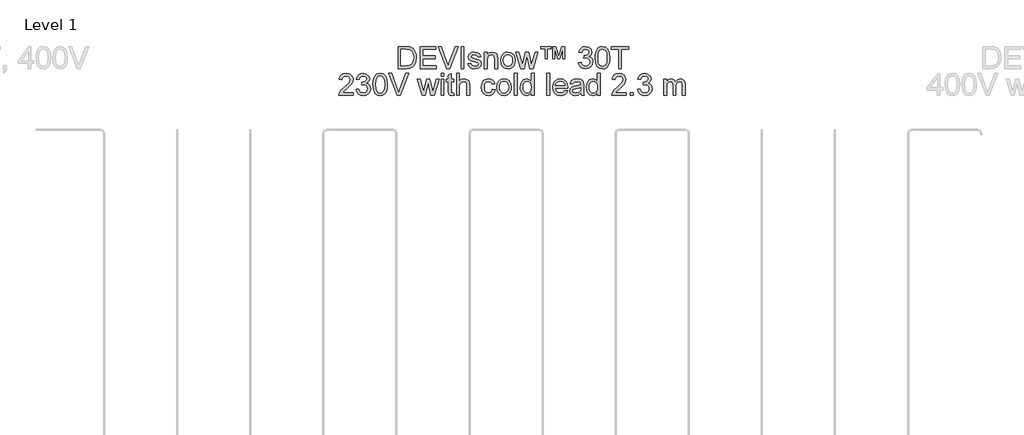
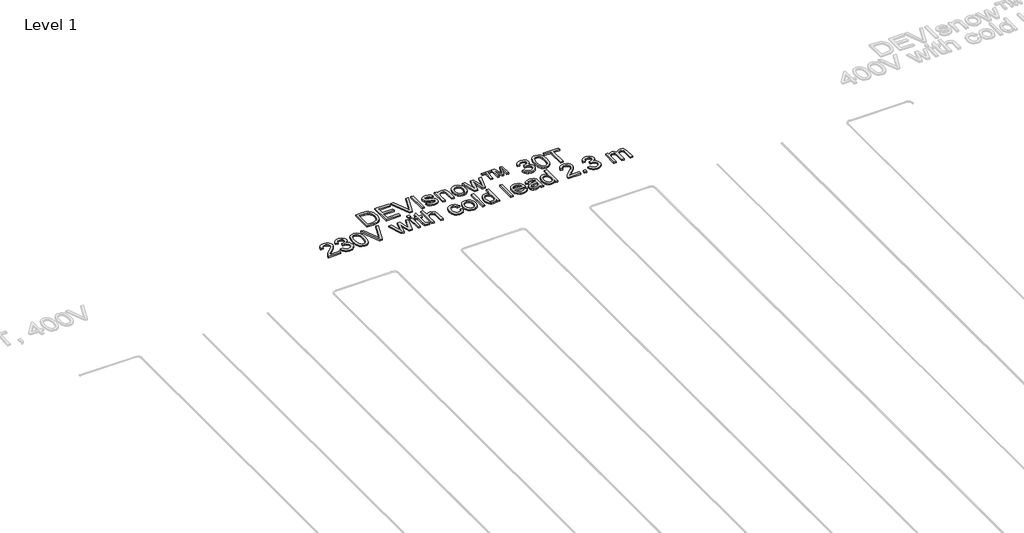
# One storey, part 17 of 26: 1 proxy.
"""IFC4 building model written with IfcOpenShell, lengths in millimetres."""

from ifc_helpers import new_model, si_unit, origin, origin_with_axes, place, context, project, spatial, polyline, outline, extrude, element, save

model = new_model("IFC4")

# Units and contexts
model_context = context("Model", 3, world=origin())
ifc_project = project(units=[si_unit("LENGTHUNIT", "METRE", prefix="MILLI")], contexts=[model_context])

# Site, building, storey
site = spatial("IfcSite", under=ifc_project)
building = spatial("IfcBuilding", under=site)
storey = spatial("IfcBuildingStorey", under=building, Name="Level 1", Elevation=0.0)

# Proxy
placement = place(None, origin())
element("IfcBuildingElementProxy", 1, Name="150mm", ObjectType="150mm", at=placement, inside=storey, context=model_context, shape_type="SweptSolid", body=[
    extrude(outline(polyline([(13423.8396742, -17520.7202), (13423.8396742, -17370.0357347), (13475.8214001, -17370.0357347), (13502.7135739, -17372.2062385), (13524.86007, -17382.985181), (13535.2803276, -17394.4630992), (13542.7023468, -17408.7369206), (13547.1445219, -17425.5307337), (13548.6252469, -17444.568627), (13544.6153332, -17474.9740739), (13534.3146373, -17496.9182349), (13520.5558507, -17510.585051), (13502.548027, -17518.145026), (13478.3229977, -17520.7202), (13423.8396742, -17520.7202)]), holes=[polyline([(13442.6752323, -17501.8846418), (13476.0053411, -17501.8846418), (13500.2487646, -17499.162315), (13514.2282804, -17491.4735813), (13525.6878045, -17472.7667819), (13529.7896888, -17444.2743214), (13527.7801334, -17423.746506), (13521.7514672, -17408.5897678), (13512.8441244, -17398.1787074), (13502.1985391, -17391.8879252), (13475.4903063, -17388.8712929), (13442.6752323, -17388.8712929), (13442.6752323, -17501.8846418)])]), origin_with_axes(), (0.0, 0.0, 1.0), 10.0),
    extrude(outline(polyline([(13574.5241394, -17520.7202), (13574.5241394, -17370.0357347), (13682.8285988, -17370.0357347), (13682.8285988, -17388.8712929), (13593.3596975, -17388.8712929), (13593.3596975, -17433.6057435), (13678.1197092, -17433.6057435), (13678.1197092, -17452.4413017), (13593.3596975, -17452.4413017), (13593.3596975, -17501.8846418), (13685.1830435, -17501.8846418), (13685.1830435, -17520.7202), (13574.5241394, -17520.7202)])), origin_with_axes(), (0.0, 0.0, 1.0), 10.0),
    extrude(outline(polyline([(13757.9501022, -17520.7202), (13697.985337, -17370.0357347), (13718.1452703, -17370.0357347), (13758.281196, -17478.5977115), (13766.4113881, -17503.0618642), (13774.4312156, -17478.5977115), (13814.6775058, -17370.0357347), (13834.8374392, -17370.0357347), (13777.4110597, -17520.7202), (13757.9501022, -17520.7202)])), origin_with_axes(), (0.0, 0.0, 1.0), 10.0),
    extrude(outline(polyline([(13854.7030669, -17520.7202), (13854.7030669, -17370.0357347), (13873.5386251, -17370.0357347), (13873.5386251, -17520.7202), (13854.7030669, -17520.7202)])), origin_with_axes(), (0.0, 0.0, 1.0), 10.0),
    extrude(outline(polyline([(13901.7919623, -17487.7579732), (13920.6275205, -17485.4035284), (13923.5981676, -17493.4601441), (13929.3463237, -17499.3830442), (13949.3223161, -17504.2390866), (13968.5257562, -17499.7877144), (13974.7797501, -17489.3398658), (13973.2070546, -17484.5390057), (13968.488968, -17480.8785799), (13949.1015869, -17475.5075028), (13920.7378851, -17466.2920588), (13908.3586559, -17455.5315104), (13904.1464071, -17440.337984), (13907.5309214, -17426.3032859), (13916.7647595, -17415.5795257), (13928.7393184, -17410.0061135), (13944.9445203, -17407.706851), (13967.8635686, -17411.4040651), (13982.4316956, -17421.4104554), (13988.9064188, -17438.314633), (13970.0708606, -17440.6690778), (13962.9891322, -17430.2764114), (13946.4160483, -17426.5424092), (13928.3898306, -17430.1108645), (13922.9819652, -17438.4249976), (13925.2260454, -17443.9064394), (13932.2525915, -17448.0635059), (13948.4761875, -17452.0734197), (13976.1225194, -17460.9393757), (13988.9616011, -17470.9825542), (13993.6153083, -17487.353303), (13988.1522607, -17505.3795208), (13972.3885172, -17518.4577257), (13949.0647987, -17523.0746447), (13930.0728907, -17520.8489587), (13916.2129365, -17514.1719004), (13906.9607043, -17503.1170465), (13901.7919623, -17487.7579732)])), origin_with_axes(), (0.0, 0.0, 1.0), 10.0),
    extrude(outline(polyline([(14014.8053112, -17520.7202), (14014.8053112, -17410.0612958), (14033.6408694, -17410.0612958), (14033.6408694, -17425.5123396), (14048.0434495, -17412.1582232), (14067.7067421, -17407.706851), (14085.4938366, -17411.2937005), (14097.6339424, -17420.7114796), (14103.2809311, -17434.5622367), (14104.2742124, -17452.7723954), (14104.2742124, -17520.7202), (14085.4386543, -17520.7202), (14085.4386543, -17455.3107812), (14083.2681505, -17438.6457268), (14075.5978109, -17429.834953), (14062.6667588, -17426.5424092), (14051.6348975, -17428.3910162), (14042.230914, -17433.9368373), (14035.7883805, -17444.6514004), (14033.6408694, -17462.0062335), (14033.6408694, -17520.7202), (14014.8053112, -17520.7202)])), origin_with_axes(), (0.0, 0.0, 1.0), 10.0),
    extrude(outline(polyline([(14125.4642154, -17465.3907479), (14129.5385085, -17438.7101062), (14141.7613878, -17419.9573215), (14156.8629437, -17410.7694686), (14174.9443437, -17407.706851), (14194.7317965, -17411.4362548), (14210.5369268, -17422.6244659), (14220.8974034, -17440.3885678), (14224.3508957, -17463.8456435), (14222.8241854, -17482.8743397), (14218.2440546, -17497.3596933), (14210.7438604, -17508.2076136), (14200.4569601, -17516.3240101), (14188.2386793, -17521.3869861), (14174.9443437, -17523.0746447), (14154.9177676, -17519.3590366), (14139.1310315, -17508.2122121), (14128.8809194, -17490.0756298), (14125.4642154, -17465.3907479)]), holes=[polyline([(14144.2997735, -17465.3539597), (14146.4794743, -17482.4006916), (14153.0185768, -17494.545396), (14162.8594202, -17501.8156639), (14174.9443437, -17504.2390866), (14186.974085, -17501.8018684), (14196.7965342, -17494.4902137), (14203.3356367, -17482.184561), (14205.5153375, -17464.7653485), (14203.3218411, -17448.2152572), (14196.7413519, -17436.2360998), (14186.9051071, -17428.9658318), (14174.9443437, -17426.5424092), (14162.8594202, -17428.9566348), (14153.0185768, -17436.1993116), (14146.4794743, -17448.3164248), (14144.2997735, -17465.3539597)])]), origin_with_axes(), (0.0, 0.0, 1.0), 10.0),
    extrude(outline(polyline([(14263.8982102, -17520.7202), (14230.2370076, -17410.0612958), (14249.8083297, -17410.0612958), (14268.9014053, -17474.624586), (14274.6035762, -17497.6907871), (14279.2756776, -17475.4707146), (14294.469204, -17410.0612958), (14316.9100057, -17410.0612958), (14332.0299557, -17475.2867736), (14336.1870222, -17495.4099187), (14342.1467105, -17474.1831276), (14361.2765743, -17410.0612958), (14380.9214728, -17410.0612958), (14347.0027529, -17520.7202), (14324.2308574, -17520.7202), (14309.773095, -17455.825816), (14305.5792402, -17435.5923063), (14286.9276231, -17520.7202), (14263.8982102, -17520.7202)])), origin_with_axes(), (0.0, 0.0, 1.0), 10.0),
    extrude(outline(polyline([(14429.1875906, -17454.7957464), (14429.1875906, -17384.1624033), (14400.9342534, -17384.1624033), (14400.9342534, -17370.0357347), (14471.5675964, -17370.0357347), (14471.5675964, -17384.1624033), (14443.3142592, -17384.1624033), (14443.3142592, -17454.7957464), (14429.1875906, -17454.7957464)])), origin_with_axes(), (0.0, 0.0, 1.0), 10.0),
    extrude(outline(polyline([(14480.9853755, -17454.7957464), (14480.9853755, -17370.0357347), (14501.8810728, -17370.0357347), (14523.4389578, -17438.0939038), (14544.7393253, -17370.0357347), (14565.7453872, -17370.0357347), (14565.7453872, -17454.7957464), (14551.6187186, -17454.7957464), (14551.6187186, -17385.1924729), (14530.4287157, -17454.7957464), (14516.302047, -17454.7957464), (14495.1120441, -17384.1624033), (14495.1120441, -17454.7957464), (14480.9853755, -17454.7957464)])), origin_with_axes(), (0.0, 0.0, 1.0), 10.0),
    extrude(outline(polyline([(14657.5687332, -17480.6946389), (14676.4042913, -17478.3401941), (14680.6211387, -17490.1767973), (14686.7969577, -17498.1690337), (14695.235251, -17502.7215733), (14706.2395212, -17504.2390866), (14719.1521792, -17502.1513563), (14729.1217813, -17495.8881653), (14735.4953368, -17486.5439626), (14737.6198553, -17475.2131972), (14735.5137309, -17464.4572473), (14729.1953577, -17455.7338455), (14719.6304258, -17449.9534997), (14707.7846255, -17448.0267177), (14694.5776619, -17450.0868569), (14696.6745893, -17431.2512987), (14699.6912216, -17431.4720279), (14721.0651656, -17426.0641626), (14728.1836822, -17419.2031634), (14730.556521, -17409.4358964), (14728.8366727, -17401.3011058), (14723.6771277, -17394.7022225), (14715.804453, -17390.3290253), (14705.9452156, -17388.8712929), (14696.067584, -17390.3428209), (14687.9925742, -17394.7574048), (14682.0972652, -17402.1150447), (14678.7587361, -17412.4157406), (14659.923178, -17410.0612958), (14665.468999, -17393.1479211), (14675.3374336, -17380.5203716), (14688.8387028, -17372.6568939), (14705.283028, -17370.0357347), (14727.9997412, -17375.2044768), (14743.8922434, -17389.3311454), (14749.3920792, -17408.3322504), (14744.1681549, -17425.6962806), (14728.7171111, -17438.1674802), (14740.507729, -17442.9315521), (14749.2449264, -17451.0433501), (14754.6527917, -17462.0614158), (14756.4554135, -17475.544291), (14752.8501699, -17493.9016025), (14742.0344393, -17509.2422817), (14725.7096757, -17519.616554), (14705.5773336, -17523.0746447), (14687.3671748, -17520.1223917), (14672.5415304, -17511.2656327), (14662.2316375, -17497.7183782), (14657.5687332, -17480.6946389)])), origin_with_axes(), (0.0, 0.0, 1.0), 10.0),
    extrude(outline(polyline([(14772.9365269, -17446.5919779), (14774.3206829, -17422.4727146), (14778.4731509, -17403.2370848), (14785.3525442, -17388.5907829), (14794.9174761, -17378.2395032), (14807.2369244, -17372.0866769), (14822.379867, -17370.0357347), (14844.3792103, -17374.8917771), (14859.5727367, -17388.889687), (14868.4019046, -17411.1833359), (14871.8232072, -17446.5919779), (14870.4528468, -17470.5732855), (14866.3417655, -17489.7629301), (14859.5037589, -17504.4230276), (14849.9526226, -17514.8156939), (14837.6055831, -17521.009907), (14822.379867, -17523.0746447), (14802.8085449, -17519.4877953), (14787.9461123, -17508.7272469), (14776.6889232, -17483.2422217), (14772.9365269, -17446.5919779)]), holes=[polyline([(14791.772085, -17446.5551897), (14793.979377, -17476.1834859), (14800.6012529, -17493.3313854), (14810.4604904, -17501.5121613), (14822.379867, -17504.2390866), (14834.2992437, -17501.5029642), (14844.1584811, -17493.2945972), (14850.7803571, -17476.1375007), (14852.987649, -17446.5551897), (14850.8539335, -17417.5936797), (14844.4527867, -17400.3124229), (14834.6119434, -17391.7315754), (14822.1591378, -17388.8712929), (14810.3685199, -17391.3912846), (14800.8955585, -17398.9512596), (14794.0529534, -17417.3085711), (14791.772085, -17446.5551897)])]), origin_with_axes(), (0.0, 0.0, 1.0), 10.0),
    extrude(outline(polyline([(14933.0387712, -17520.7202), (14933.0387712, -17388.8712929), (14883.595431, -17388.8712929), (14883.595431, -17370.0357347), (15001.3176695, -17370.0357347), (15001.3176695, -17388.8712929), (14951.8743293, -17388.8712929), (14951.8743293, -17520.7202), (14933.0387712, -17520.7202)])), origin_with_axes(), (0.0, 0.0, 1.0), 10.0),
    extrude(outline(polyline([(13117.7618542, -17684.8468686), (13117.7618542, -17703.6824267), (13018.8751739, -17703.6824267), (13020.8985249, -17690.6961923), (13032.3396549, -17670.7018059), (13055.9208908, -17648.8680094), (13088.4416592, -17617.4876753), (13094.5393032, -17606.6719446), (13096.5718513, -17596.1505195), (13094.6542664, -17586.7189449), (13088.9015117, -17578.8784599), (13080.0585482, -17573.5947547), (13068.870337, -17571.8335197), (13057.1211058, -17573.553368), (13047.9930338, -17578.712913), (13042.1023233, -17586.9074844), (13040.0651768, -17597.7324121), (13021.2296186, -17595.3779673), (13025.7959539, -17577.1586115), (13035.668987, -17563.8504804), (13050.333683, -17555.7110912), (13069.2750072, -17552.9979615), (13088.3542872, -17556.0145939), (13102.9913921, -17565.0644909), (13112.3034051, -17578.5841543), (13115.4074094, -17595.0100854), (13112.0596833, -17612.8707562), (13100.9312529, -17631.3384324), (13073.9471086, -17657.1453543), (13052.278859, -17675.2635426), (13043.780785, -17684.8468686), (13117.7618542, -17684.8468686)])), origin_with_axes(), (0.0, 0.0, 1.0), 10.0),
    extrude(outline(polyline([(13136.5974123, -17663.6568657), (13155.4329705, -17661.3024209), (13159.6498179, -17673.1390241), (13165.8256369, -17681.1312604), (13174.2639301, -17685.6838001), (13185.2682003, -17687.2013133), (13198.1808583, -17685.113583), (13208.1504604, -17678.8503921), (13214.524016, -17669.5061894), (13216.6485345, -17658.1754239), (13214.5424101, -17647.4194741), (13208.2240368, -17638.6960723), (13198.6591049, -17632.9157264), (13186.8133047, -17630.9889445), (13173.606341, -17633.0490837), (13175.7032684, -17614.2135255), (13178.7199008, -17614.4342547), (13200.0938447, -17609.0263894), (13207.2123613, -17602.1653902), (13209.5852002, -17592.3981232), (13207.8653518, -17584.2633326), (13202.7058069, -17577.6644493), (13194.8331322, -17573.2912521), (13184.9738947, -17571.8335197), (13175.0962631, -17573.3050476), (13167.0212533, -17577.7196316), (13161.1259444, -17585.0772715), (13157.7874153, -17595.3779673), (13138.9518571, -17593.0235226), (13144.4976782, -17576.1101478), (13154.3661127, -17563.4825984), (13167.8673819, -17555.6191207), (13184.3117071, -17552.9979615), (13207.0284203, -17558.1667035), (13222.9209225, -17572.2933721), (13228.4207583, -17591.2944772), (13223.196834, -17608.6585074), (13207.7457902, -17621.129707), (13219.5364081, -17625.8937788), (13228.2736055, -17634.0055768), (13233.6814709, -17645.0236426), (13235.4840926, -17658.5065177), (13231.8788491, -17676.8638293), (13221.0631184, -17692.2045085), (13204.7383549, -17702.5787807), (13184.6060127, -17706.0368715), (13166.3958539, -17703.0846185), (13151.5702095, -17694.2278594), (13141.2603166, -17680.680605), (13136.5974123, -17663.6568657)])), origin_with_axes(), (0.0, 0.0, 1.0), 10.0),
    extrude(outline(polyline([(13251.965206, -17629.5542047), (13253.349362, -17605.4349414), (13257.50183, -17586.1993116), (13264.3812234, -17571.5530096), (13273.9461552, -17561.20173), (13286.2656035, -17555.0489036), (13301.4085462, -17552.9979615), (13323.4078895, -17557.8540038), (13338.6014159, -17571.8519138), (13347.4305838, -17594.1455627), (13350.8518863, -17629.5542047), (13349.4815259, -17653.5355123), (13345.3704446, -17672.7251568), (13338.532438, -17687.3852543), (13328.9813017, -17697.7779207), (13316.6342622, -17703.9721338), (13301.4085462, -17706.0368715), (13281.837224, -17702.450022), (13266.9747914, -17691.6894737), (13255.7176024, -17666.2044485), (13251.965206, -17629.5542047)]), holes=[polyline([(13270.8007642, -17629.5174165), (13273.0080561, -17659.1457127), (13279.6299321, -17676.2936122), (13289.4891695, -17684.4743881), (13301.4085462, -17687.2013133), (13313.3279228, -17684.465191), (13323.1871603, -17676.256824), (13329.8090362, -17659.0997274), (13332.0163282, -17629.5174165), (13329.8826126, -17600.5559064), (13323.4814659, -17583.2746497), (13313.6406225, -17574.6938022), (13301.187817, -17571.8335197), (13289.397199, -17574.3535113), (13279.9242377, -17581.9134863), (13273.0816325, -17600.2707979), (13270.8007642, -17629.5174165)])]), origin_with_axes(), (0.0, 0.0, 1.0), 10.0),
    extrude(outline(polyline([(13418.9100554, -17703.6824267), (13358.9452902, -17552.9979615), (13379.1052236, -17552.9979615), (13419.2411492, -17661.5599383), (13427.3713413, -17686.024091), (13435.3911688, -17661.5599383), (13475.6374591, -17552.9979615), (13495.7973924, -17552.9979615), (13438.371013, -17703.6824267), (13418.9100554, -17703.6824267)])), origin_with_axes(), (0.0, 0.0, 1.0), 10.0),
    extrude(outline(polyline([(13588.1725614, -17703.6824267), (13554.5113589, -17593.0235226), (13574.082681, -17593.0235226), (13593.1757565, -17657.5868127), (13598.8779275, -17680.6530138), (13603.5500288, -17658.4329413), (13618.7435552, -17593.0235226), (13641.1843569, -17593.0235226), (13656.3043069, -17658.2490003), (13660.4613735, -17678.3721455), (13666.4210618, -17657.1453543), (13685.5509255, -17593.0235226), (13705.1958241, -17593.0235226), (13671.2771041, -17703.6824267), (13648.5052086, -17703.6824267), (13634.0474462, -17638.7880428), (13629.8535915, -17618.554533), (13611.2019743, -17703.6824267), (13588.1725614, -17703.6824267)])), origin_with_axes(), (0.0, 0.0, 1.0), 10.0),
    extrude(outline(polyline([(13718.1452703, -17571.8335197), (13718.1452703, -17552.9979615), (13736.9808285, -17552.9979615), (13736.9808285, -17571.8335197), (13718.1452703, -17571.8335197)])), origin_with_axes(), (0.0, 0.0, 1.0), 10.0),
    extrude(outline(polyline([(13718.1452703, -17703.6824267), (13718.1452703, -17593.0235226), (13736.9808285, -17593.0235226), (13736.9808285, -17703.6824267), (13718.1452703, -17703.6824267)])), origin_with_axes(), (0.0, 0.0, 1.0), 10.0),
    extrude(outline(polyline([(13805.2597268, -17687.9738655), (13807.6141715, -17704.2342497), (13793.5242911, -17706.0368715), (13777.7421535, -17702.9098745), (13769.8694788, -17694.706106), (13767.5886105, -17673.3321621), (13767.5886105, -17611.8590807), (13753.4619418, -17611.8590807), (13753.4619418, -17593.0235226), (13767.5886105, -17593.0235226), (13767.5886105, -17566.1313487), (13786.4241686, -17555.0581007), (13786.4241686, -17593.0235226), (13805.2597268, -17593.0235226), (13805.2597268, -17611.8590807), (13786.4241686, -17611.8590807), (13786.4241686, -17672.7803391), (13787.41745, -17682.4924238), (13790.6364175, -17685.9321205), (13797.0559583, -17687.2013133), (13805.2597268, -17687.9738655)])), origin_with_axes(), (0.0, 0.0, 1.0), 10.0),
    extrude(outline(polyline([(13824.0952849, -17703.6824267), (13824.0952849, -17552.9979615), (13842.9308431, -17552.9979615), (13842.9308431, -17608.40099), (13857.6185317, -17595.1020558), (13875.7091288, -17590.6690778), (13896.8623436, -17595.506726), (13909.7014252, -17608.8792366), (13913.5641861, -17633.6376948), (13913.5641861, -17703.6824267), (13894.728628, -17703.6824267), (13894.728628, -17635.5874694), (13893.2295089, -17623.7968515), (13888.7321515, -17615.7218417), (13881.4848762, -17611.0589374), (13871.7360033, -17609.504636), (13856.3033536, -17613.6984907), (13846.0026577, -17625.0660444), (13842.9308431, -17644.8948839), (13842.9308431, -17703.6824267), (13824.0952849, -17703.6824267)])), origin_with_axes(), (0.0, 0.0, 1.0), 10.0),
    extrude(outline(polyline([(14068.9575409, -17663.6568657), (14087.7930991, -17666.0113104), (14082.5415836, -17682.7637368), (14072.6731491, -17695.4234759), (14059.1166975, -17703.3835226), (14042.8011311, -17706.0368715), (14022.7653579, -17702.3350589), (14007.0981834, -17691.2296212), (13996.9860271, -17673.208002), (13993.6153083, -17648.7576448), (13995.0546466, -17631.9960214), (13999.3726615, -17617.4692812), (14006.6383309, -17605.738444), (14016.9206327, -17597.3645301), (14029.2216869, -17592.3429409), (14042.5436137, -17590.6690778), (14058.4591085, -17592.9683403), (14071.183227, -17599.8661277), (14080.311299, -17610.994558), (14085.4386543, -17625.9857493), (14066.6030961, -17628.3401941), (14057.8658988, -17614.2319196), (14042.6907665, -17609.504636), (14030.5184709, -17611.8314896), (14020.85697, -17618.8120504), (14014.5523923, -17630.8233976), (14012.4508665, -17648.2426101), (14014.5064071, -17665.8963473), (14020.673029, -17677.9490812), (14030.159786, -17684.8882553), (14042.1757317, -17687.2013133), (14051.9292031, -17685.7573765), (14059.9260379, -17681.425566), (14065.743172, -17674.0955173), (14068.9575409, -17663.6568657)])), origin_with_axes(), (0.0, 0.0, 1.0), 10.0),
    extrude(outline(polyline([(14099.5653229, -17648.3529747), (14103.639616, -17621.672333), (14115.8624953, -17602.9195482), (14130.9640512, -17593.7316954), (14149.0454513, -17590.6690778), (14168.8329041, -17594.3984815), (14184.6380343, -17605.5866927), (14194.998511, -17623.3507946), (14198.4520032, -17646.8078703), (14196.9252929, -17665.8365665), (14192.3451621, -17680.32192), (14184.8449679, -17691.1698404), (14174.5580676, -17699.2862369), (14162.3397869, -17704.3492128), (14149.0454513, -17706.0368715), (14129.0188751, -17702.3212633), (14113.232139, -17691.1744389), (14102.9820269, -17673.0378565), (14099.5653229, -17648.3529747)]), holes=[polyline([(14118.4008811, -17648.3161865), (14120.5805819, -17665.3629184), (14127.1196843, -17677.5076228), (14136.9605277, -17684.7778907), (14149.0454513, -17687.2013133), (14161.0751925, -17684.7640951), (14170.8976418, -17677.4524405), (14177.4367442, -17665.1467877), (14179.6164451, -17647.7275753), (14177.4229487, -17631.177484), (14170.8424595, -17619.1983265), (14161.0062146, -17611.9280586), (14149.0454513, -17609.504636), (14136.9605277, -17611.9188616), (14127.1196843, -17619.1615383), (14120.5805819, -17631.2786516), (14118.4008811, -17648.3161865)])]), origin_with_axes(), (0.0, 0.0, 1.0), 10.0),
    extrude(outline(polyline([(14219.6420061, -17703.6824267), (14219.6420061, -17552.9979615), (14238.4775643, -17552.9979615), (14238.4775643, -17703.6824267), (14219.6420061, -17703.6824267)])), origin_with_axes(), (0.0, 0.0, 1.0), 10.0),
    extrude(outline(polyline([(14335.0097998, -17703.6824267), (14335.0097998, -17685.9137264), (14322.5477972, -17701.0060852), (14305.3217228, -17706.0368715), (14293.1448288, -17704.2158556), (14281.9980043, -17698.752808), (14272.5618311, -17690.0294062), (14265.5168909, -17678.4273278), (14261.1298981, -17664.4156223), (14259.6675672, -17648.4633392), (14265.0570384, -17618.4809566), (14271.789279, -17606.5891711), (14281.207058, -17597.8427767), (14292.5976043, -17592.4625025), (14305.2481464, -17590.6690778), (14322.6121766, -17595.8010316), (14335.0097998, -17609.136754), (14335.0097998, -17552.9979615), (14353.845358, -17552.9979615), (14353.845358, -17703.6824267), (14335.0097998, -17703.6824267)]), holes=[polyline([(14278.5031254, -17648.3897629), (14280.6276439, -17665.4272978), (14287.0011995, -17677.544411), (14296.2626287, -17684.7870877), (14307.0507682, -17687.2013133), (14317.8343092, -17684.8974523), (14326.8612136, -17677.9858694), (14332.9726533, -17666.3378057), (14335.0097998, -17649.8245026), (14332.9358651, -17631.7706937), (14326.7140608, -17619.2535088), (14317.4572301, -17611.9418542), (14306.278216, -17609.504636), (14295.3797119, -17611.8452852), (14286.4493765, -17618.8672327), (14280.4896881, -17630.9291637), (14278.5031254, -17648.3897629)])]), origin_with_axes(), (0.0, 0.0, 1.0), 10.0),
    extrude(outline(polyline([(14440.9598144, -17703.6824267), (14440.9598144, -17552.9979615), (14459.7953726, -17552.9979615), (14459.7953726, -17703.6824267), (14440.9598144, -17703.6824267)])), origin_with_axes(), (0.0, 0.0, 1.0), 10.0),
    extrude(outline(polyline([(14565.524658, -17670.7202), (14583.9923342, -17673.0746447), (14577.3382686, -17686.9897812), (14566.7202745, -17697.3916446), (14552.3774752, -17703.8755648), (14534.548994, -17706.0368715), (14512.4484831, -17702.3074678), (14495.4431379, -17691.1192566), (14484.5998161, -17673.1988049), (14480.9853755, -17649.2726796), (14484.6366043, -17624.5418125), (14495.5902907, -17606.0465452), (14512.3657097, -17594.5134447), (14533.4821362, -17590.6690778), (14553.9409737, -17594.5042476), (14570.2887298, -17606.009757), (14581.0078915, -17624.4682361), (14584.5809453, -17649.162315), (14584.4705808, -17654.2390866), (14499.8209337, -17654.2390866), (14503.0812878, -17668.338164), (14510.6550584, -17678.7032393), (14521.5857522, -17685.0767948), (14534.916876, -17687.2013133), (14553.3845522, -17683.264976), (14565.524658, -17670.7202)]), holes=[polyline([(14499.8209337, -17635.4035284), (14565.7453872, -17635.4035284), (14563.1978044, -17625.4523205), (14558.2038063, -17618.3338038), (14547.2225287, -17611.7119279), (14533.4085598, -17609.504636), (14520.7120325, -17611.265871), (14510.2136, -17616.5495762), (14502.9157409, -17624.7855343), (14499.8209337, -17635.4035284)])]), origin_with_axes(), (0.0, 0.0, 1.0), 10.0),
    extrude(outline(polyline([(14674.0498466, -17689.5557581), (14655.7845055, -17702.3212633), (14635.6061781, -17706.0368715), (14619.8654272, -17703.8019884), (14608.2541517, -17697.097339), (14601.0942484, -17686.9162048), (14598.707614, -17674.2518671), (14602.3128575, -17659.3526463), (14611.7858189, -17648.5369156), (14624.9743884, -17642.3564981), (14641.2715608, -17639.5238068), (14673.939482, -17633.0490837), (14674.0498466, -17628.8552289), (14672.7530625, -17620.4491253), (14668.8627104, -17614.9492895), (14660.1623013, -17610.8657993), (14648.0405895, -17609.504636), (14628.9843022, -17613.1282736), (14619.8976169, -17625.9857493), (14601.0620587, -17623.6313046), (14609.2106449, -17605.2372048), (14625.6181819, -17594.4582624), (14650.4686107, -17590.6690778), (14673.2956885, -17594.016804), (14686.1899524, -17602.4229076), (14691.9656997, -17615.2068069), (14692.8854047, -17631.6879203), (14692.8854047, -17655.1220034), (14693.8418979, -17687.8451068), (14697.5942943, -17703.6824267), (14678.7587361, -17703.6824267), (14674.0498466, -17689.5557581)]), holes=[polyline([(14674.0498466, -17651.8846418), (14643.6627938, -17657.6603891), (14627.4575919, -17660.7138097), (14620.1183461, -17665.6802166), (14617.5431721, -17672.9274919), (14623.1533725, -17683.1178232), (14639.6160918, -17687.2013133), (14658.6723792, -17682.6947589), (14670.9596378, -17671.7870577), (14673.939482, -17657.2189307), (14674.0498466, -17651.8846418)])]), origin_with_axes(), (0.0, 0.0, 1.0), 10.0),
    extrude(outline(polyline([(14787.0631955, -17703.6824267), (14787.0631955, -17685.9137264), (14774.6011929, -17701.0060852), (14757.3751185, -17706.0368715), (14745.1982244, -17704.2158556), (14734.0514, -17698.752808), (14724.6152268, -17690.0294062), (14717.5702866, -17678.4273278), (14713.1832938, -17664.4156223), (14711.7209629, -17648.4633392), (14717.1104341, -17618.4809566), (14723.8426746, -17606.5891711), (14733.2604537, -17597.8427767), (14744.651, -17592.4625025), (14757.3015421, -17590.6690778), (14774.6655723, -17595.8010316), (14787.0631955, -17609.136754), (14787.0631955, -17552.9979615), (14805.8987536, -17552.9979615), (14805.8987536, -17703.6824267), (14787.0631955, -17703.6824267)]), holes=[polyline([(14730.556521, -17648.3897629), (14732.6810396, -17665.4272978), (14739.0545951, -17677.544411), (14748.3160244, -17684.7870877), (14759.1041639, -17687.2013133), (14769.8877048, -17684.8974523), (14778.9146093, -17677.9858694), (14785.0260489, -17666.3378057), (14787.0631955, -17649.8245026), (14784.9892607, -17631.7706937), (14778.7674565, -17619.2535088), (14769.5106258, -17611.9418542), (14758.3316117, -17609.504636), (14747.4331076, -17611.8452852), (14738.5027721, -17618.8672327), (14732.5430838, -17630.9291637), (14730.556521, -17648.3897629)])]), origin_with_axes(), (0.0, 0.0, 1.0), 10.0),
    extrude(outline(polyline([(14984.8365561, -17684.8468686), (14984.8365561, -17703.6824267), (14885.9498758, -17703.6824267), (14887.9732268, -17690.6961923), (14899.4143568, -17670.7018059), (14922.9955927, -17648.8680094), (14955.5163611, -17617.4876753), (14961.6140052, -17606.6719446), (14963.6465532, -17596.1505195), (14961.7289683, -17586.7189449), (14955.9762136, -17578.8784599), (14947.1332501, -17573.5947547), (14935.9450389, -17571.8335197), (14924.1958077, -17573.553368), (14915.0677357, -17578.712913), (14909.1770253, -17586.9074844), (14907.1398787, -17597.7324121), (14888.3043206, -17595.3779673), (14892.8706558, -17577.1586115), (14902.7436889, -17563.8504804), (14917.4083849, -17555.7110912), (14936.3497091, -17552.9979615), (14955.4289891, -17556.0145939), (14970.066094, -17565.0644909), (14979.378107, -17578.5841543), (14982.4821113, -17595.0100854), (14979.1343852, -17612.8707562), (14968.0059548, -17631.3384324), (14941.0218105, -17657.1453543), (14919.353561, -17675.2635426), (14910.8554869, -17684.8468686), (14984.8365561, -17684.8468686)])), origin_with_axes(), (0.0, 0.0, 1.0), 10.0),
    extrude(outline(polyline([(15013.0898933, -17703.6824267), (15013.0898933, -17684.8468686), (15031.9254515, -17684.8468686), (15031.9254515, -17703.6824267), (15013.0898933, -17703.6824267)])), origin_with_axes(), (0.0, 0.0, 1.0), 10.0),
    extrude(outline(polyline([(15062.5332335, -17663.6568657), (15081.3687916, -17661.3024209), (15085.585639, -17673.1390241), (15091.761458, -17681.1312604), (15100.1997513, -17685.6838001), (15111.2040214, -17687.2013133), (15124.1166795, -17685.113583), (15134.0862815, -17678.8503921), (15140.4598371, -17669.5061894), (15142.5843556, -17658.1754239), (15140.4782312, -17647.4194741), (15134.1598579, -17638.6960723), (15124.5949261, -17632.9157264), (15112.7491258, -17630.9889445), (15099.5421622, -17633.0490837), (15101.6390896, -17614.2135255), (15104.6557219, -17614.4342547), (15126.0296659, -17609.0263894), (15133.1481825, -17602.1653902), (15135.5210213, -17592.3981232), (15133.801173, -17584.2633326), (15128.641628, -17577.6644493), (15120.7689533, -17573.2912521), (15110.9097158, -17571.8335197), (15101.0320843, -17573.3050476), (15092.9570745, -17577.7196316), (15087.0617655, -17585.0772715), (15083.7232364, -17595.3779673), (15064.8876783, -17593.0235226), (15070.4334993, -17576.1101478), (15080.3019339, -17563.4825984), (15093.8032031, -17555.6191207), (15110.2475283, -17552.9979615), (15132.9642415, -17558.1667035), (15148.8567437, -17572.2933721), (15154.3565795, -17591.2944772), (15149.1326551, -17608.6585074), (15133.6816114, -17621.129707), (15145.4722293, -17625.8937788), (15154.2094267, -17634.0055768), (15159.617292, -17645.0236426), (15161.4199138, -17658.5065177), (15157.8146702, -17676.8638293), (15146.9989396, -17692.2045085), (15130.674176, -17702.5787807), (15110.5418339, -17706.0368715), (15092.3316751, -17703.0846185), (15077.5060307, -17694.2278594), (15067.1961378, -17680.680605), (15062.5332335, -17663.6568657)])), origin_with_axes(), (0.0, 0.0, 1.0), 10.0),
    extrude(outline(polyline([(15241.4710359, -17703.6824267), (15241.4710359, -17593.0235226), (15260.3065941, -17593.0235226), (15260.3065941, -17611.2336813), (15273.2560403, -17596.3160664), (15291.6869283, -17590.6690778), (15302.1623681, -17592.1084161), (15310.5592746, -17596.426431), (15320.9335469, -17612.5580565), (15335.6304326, -17596.1413225), (15354.1900793, -17590.6690778), (15368.3489375, -17592.9453477), (15378.8197788, -17599.7741572), (15385.2899034, -17611.3394474), (15387.4466116, -17627.8251593), (15387.4466116, -17703.6824267), (15368.6110535, -17703.6824267), (15368.6110535, -17635.9185632), (15366.863614, -17620.1916079), (15360.5360437, -17612.4476919), (15349.7754953, -17609.504636), (15339.5713685, -17611.3900312), (15331.2526369, -17617.0462169), (15325.7206114, -17626.8594691), (15323.8766029, -17641.2160639), (15323.8766029, -17703.6824267), (15305.0410447, -17703.6824267), (15305.0410447, -17633.8216358), (15300.6816431, -17615.5746889), (15294.9288884, -17611.0221492), (15286.3894275, -17609.504636), (15272.4466999, -17613.5513379), (15263.1760737, -17625.3971382), (15260.3065941, -17647.8747281), (15260.3065941, -17703.6824267), (15241.4710359, -17703.6824267)])), origin_with_axes(), (0.0, 0.0, 1.0), 10.0),
])

save(model, "model.ifc")
